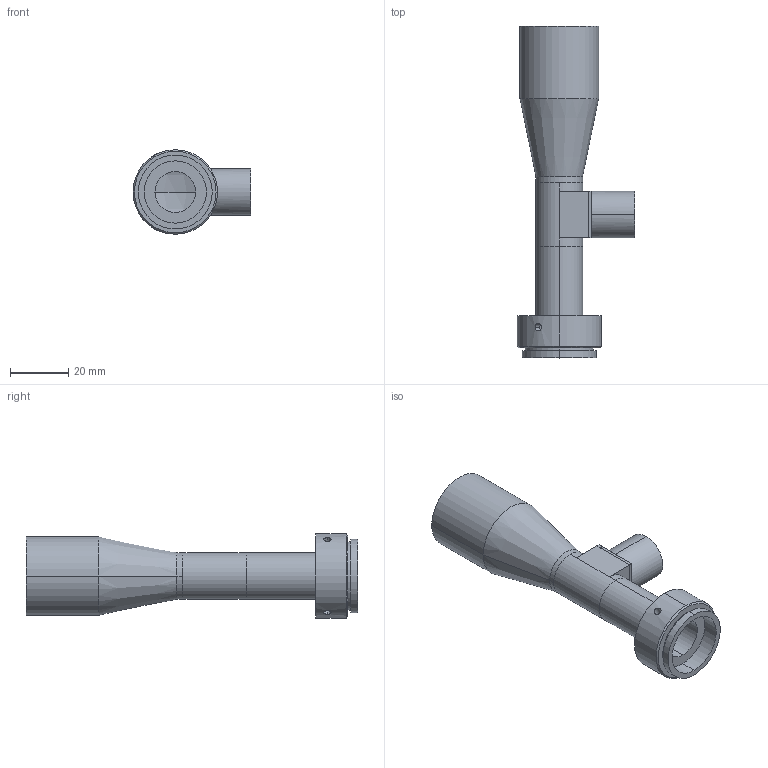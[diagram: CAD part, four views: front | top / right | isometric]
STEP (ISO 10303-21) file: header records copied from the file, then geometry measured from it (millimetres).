
FILE_DESCRIPTION (( 'STEP AP203' ), '1' );
FILE_NAME ('XF-T1X65D蚾饜芞-20141201V5.STEP', '2016-03-02T02:21:29', ( 'cherishsunshine' ), ( '' ), 'SwSTEP 2.0', 'SolidWorks 2014', '' );
FILE_SCHEMA (( 'CONFIG_CONTROL_DESIGN' ));
Length unit declared in the file: millimetre
Products named in the file (1): XF-T1X65D蚾饜芞-20141201V5
Bounding box: 40.5 x 114.05 x 29 mm (x, y, z)
Surface area: 13935.3 mm2 (no closed solid volume)
Topology: 0 solids, 8 shells, 98 faces, 262 edges, 169 vertices
Faces by surface type: cylinder 57, plane 33, cone 6, sphere 2
Entity records: 3378 total; most frequent: CARTESIAN_POINT 758, DIRECTION 592, ORIENTED_EDGE 460, EDGE_CURVE 262, AXIS2_PLACEMENT_3D 243, VERTEX_POINT 169, CIRCLE 144, EDGE_LOOP 121
